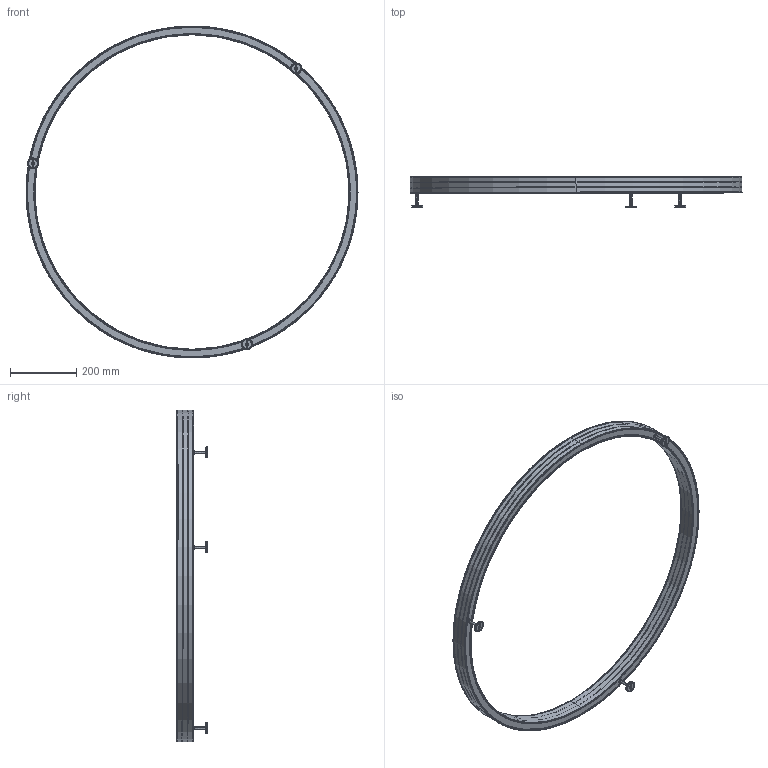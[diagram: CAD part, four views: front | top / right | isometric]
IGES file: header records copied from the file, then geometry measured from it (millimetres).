
Start section: SolidWorks IGES file using analytic representation for surfaces
Global section: file name: L:\Tecnico_PMT\R&D\NEMOstudio\ZIRKOL NEMO\Zirkol wall\3D OK PER RENDER\Zirkol C wall 1M.IGS; native system: SolidWorks 2016; preprocessor: SolidWorks 2016; author: MartinaCornero; date: 220202.163907; units: millimetre
Bounding box: 1000.08 x 93.98 x 1000.04 mm (x, y, z)
Surface area: 1259392.5 mm2 (no closed solid volume)
Topology: 0 solids, 0 shells, 624 faces, 11471 edges, 11471 vertices
Faces by surface type: revolution 328, bspline 296
